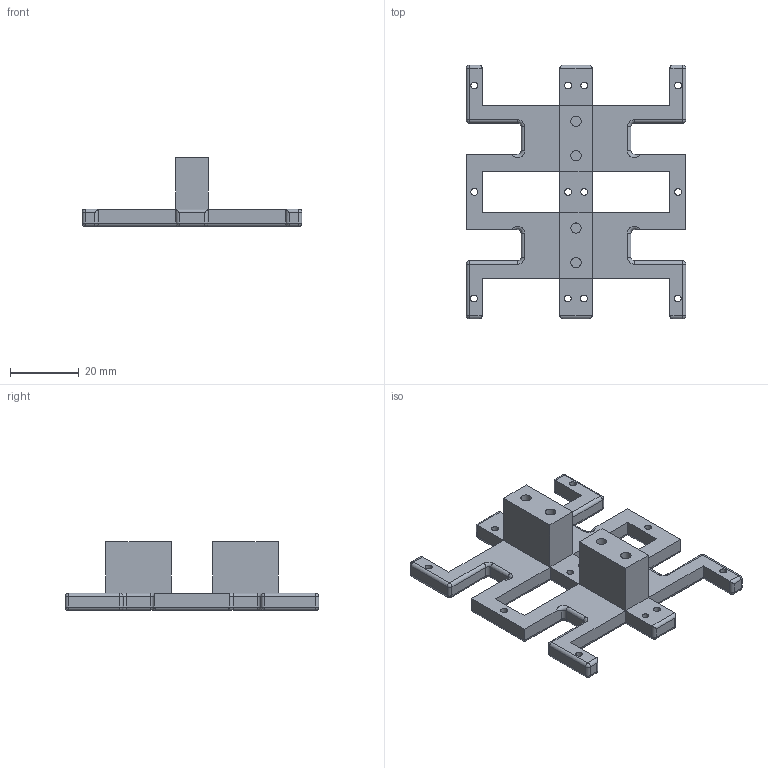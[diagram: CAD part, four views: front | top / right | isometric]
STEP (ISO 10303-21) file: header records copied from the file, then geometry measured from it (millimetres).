
FILE_DESCRIPTION(/* description */ ('STEP AP242 Edition 2','CAx-IF Rec.Pracs.---Representation and Presentation of Product Manufacturing Information (PMI)---4.0---2014-10-13','CAx-IF Rec.Pracs.---3D Tessellated Geometry---0.4---2014-09-14','2;1','CAx-IF Rec.Pracs.---User Defined Attributes---1.5---2016-08-15'),/* implementation_level */ '2;1');
FILE_NAME(/* name */ 'Assembly 1 - Part 1 (74)',/* time_stamp */ '2026-06-04T16:20:02Z',/* author */ (''),/* organization */ (''),/* preprocessor_version */ 'ST-DEVELOPER v20',/* originating_system */ 'ONSHAPE BY PTC INC, 1.215',/* authorisation */ ' ');
FILE_SCHEMA (('AP242_MANAGED_MODEL_BASED_3D_ENGINEERING_MIM_LF { 1 0 10303 442 3 1 4 }'));
Length unit declared in the file: metre
Products named in the file (1): Part 1
Bounding box: 63.8 x 73.6 x 20 mm (x, y, z)
Volume: 17302.7 mm3; surface area: 10161.3 mm2
Topology: 1 solids, 1 shells, 220 faces, 556 edges, 304 vertices
Faces by surface type: cylinder 102, plane 66, torus 28, sphere 24
Full cylindrical faces by diameter (mm): 2 x12, 3 x4
Entity records: 6164 total; most frequent: DIRECTION 1122, CARTESIAN_POINT 1093, ORIENTED_EDGE 984, EDGE_CURVE 492, AXIS2_PLACEMENT_3D 431, VERTEX_POINT 292, EDGE_LOOP 266, FACE_BOUND 266
